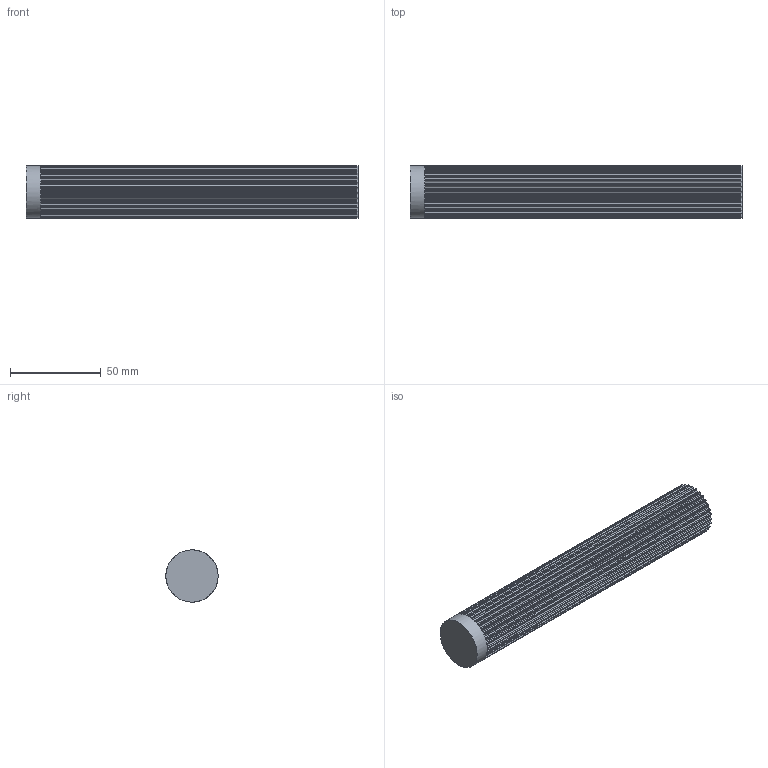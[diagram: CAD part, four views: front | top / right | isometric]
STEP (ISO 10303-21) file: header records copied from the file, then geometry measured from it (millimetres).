
FILE_DESCRIPTION( ( 'STEP AP214' ), '1' );
FILE_NAME( 'C:/Users/StangenbergN/Desktop/Steps Zahnriemenräder/K166_HTD-Zahnwellen/17093100.stp', '2019-06-06T09:34:39', ( '' ), ( '' ), ' ', 'PARTsolutions', ' ' );
FILE_SCHEMA( ( 'AUTOMOTIVE_DESIGN { 1 0 10303 214 1 1 1 1 }' ) );
Length unit declared in the file: millimetre
Products named in the file (1): _17093100
Bounding box: 183 x 28.84 x 28.84 mm (x, y, z)
Volume: 108031.5 mm3; surface area: 23629.9 mm2
Topology: 1 solids, 1 shells, 251 faces, 747 edges, 498 vertices
Faces by surface type: plane 126, cylinder 125
Full cylindrical faces by diameter (mm): 28.84 x1
Entity records: 10562 total; most frequent: DIRECTION 1560, CARTESIAN_POINT 1494, ORIENTED_EDGE 1490, EDGE_CURVE 745, AXIS2_PLACEMENT_3D 563, VERTEX_POINT 497, LINE 434, VECTOR 434
